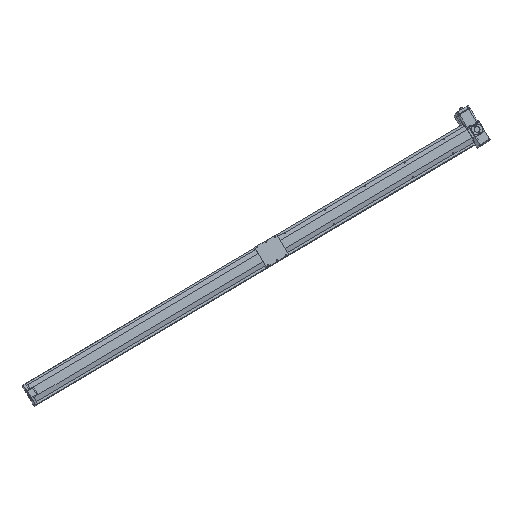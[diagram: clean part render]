
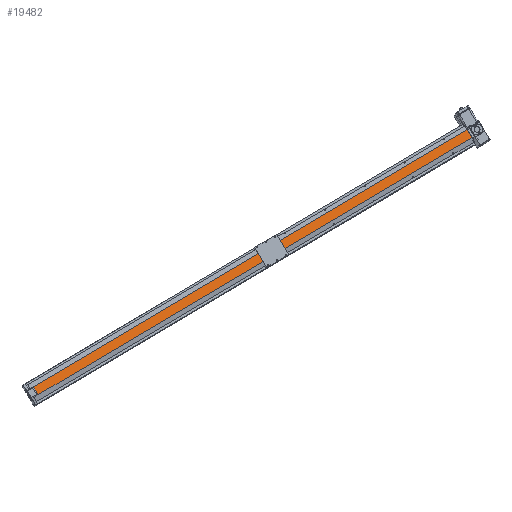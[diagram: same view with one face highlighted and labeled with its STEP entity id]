
A CAD part, front view. The second image highlights one B-rep face of the part: STEP entity #19482.
In plain terms, the highlighted planar face has unit normal (0.104, -0.986, 0.129) as drawn and (0, 1, 0) by its records, which use the part's own axes.
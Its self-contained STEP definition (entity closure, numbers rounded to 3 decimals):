
#1778 = DIRECTION ( 'NONE',  ( 0., 0., -1. ) ) ;
#2711 = VECTOR ( 'NONE', #1778, 1000. ) ;
#2718 = CARTESIAN_POINT ( 'NONE',  ( 20., 61.75, 2200. ) ) ;
#2719 = LINE ( 'NONE', #2718, #2711 ) ;
#2731 = CARTESIAN_POINT ( 'NONE',  ( 20., 61.75, 5.114 ) ) ;
#2739 = CARTESIAN_POINT ( 'NONE',  ( 20., 61.75, 0. ) ) ;
#9299 = CARTESIAN_POINT ( 'NONE',  ( -20., 61.75, 0. ) ) ;
#9348 = CARTESIAN_POINT ( 'NONE',  ( -20., 61.75, 2200. ) ) ;
#9401 = CARTESIAN_POINT ( 'NONE',  ( 20., 61.75, 2200. ) ) ;
#9459 = DIRECTION ( 'NONE',  ( 0., 0., -1. ) ) ;
#9460 = VECTOR ( 'NONE', #9459, 1000. ) ;
#9461 = CARTESIAN_POINT ( 'NONE',  ( 20., 61.75, 2200. ) ) ;
#9462 = LINE ( 'NONE', #9461, #9460 ) ;
#9466 = DIRECTION ( 'NONE',  ( -1., 0., 0. ) ) ;
#9468 = VECTOR ( 'NONE', #9466, 1000. ) ;
#9469 = CARTESIAN_POINT ( 'NONE',  ( 20., 61.75, 2200. ) ) ;
#9470 = LINE ( 'NONE', #9469, #9468 ) ;
#9471 = DIRECTION ( 'NONE',  ( -1., 0., 0. ) ) ;
#9472 = VECTOR ( 'NONE', #9471, 1000. ) ;
#9473 = CARTESIAN_POINT ( 'NONE',  ( 20., 61.75, 0. ) ) ;
#9474 = LINE ( 'NONE', #9473, #9472 ) ;
#9476 = DIRECTION ( 'NONE',  ( 0., 0., -1. ) ) ;
#9478 = DIRECTION ( 'NONE',  ( 0., 0., -1. ) ) ;
#9479 = DIRECTION ( 'NONE',  ( 0., -1., 0. ) ) ;
#9480 = CARTESIAN_POINT ( 'NONE',  ( 20., 61.75, 2200. ) ) ;
#9481 = AXIS2_PLACEMENT_3D ( 'NONE', #9480, #9479, #9478 ) ;
#9482 = PLANE ( 'NONE',  #9481 ) ;
#9483 = VECTOR ( 'NONE', #9476, 1000. ) ;
#9484 = CARTESIAN_POINT ( 'NONE',  ( -20., 61.75, 2200. ) ) ;
#9485 = LINE ( 'NONE', #9484, #9483 ) ;
#9486 = FACE_OUTER_BOUND ( 'NONE', #19368, .T. ) ;
#19328 = VERTEX_POINT ( 'NONE', #9299 ) ;
#19340 = VERTEX_POINT ( 'NONE', #9348 ) ;
#19368 = EDGE_LOOP ( 'NONE', ( #19488, #19496, #19484, #19502, #19494 ) ) ;
#19482 = ADVANCED_FACE ( 'NONE', ( #9486 ), #9482, .F. ) ;
#19484 = ORIENTED_EDGE ( 'NONE', *, *, #19498, .F. ) ;
#19486 = VERTEX_POINT ( 'NONE', #9401 ) ;
#19488 = ORIENTED_EDGE ( 'NONE', *, *, #19492, .T. ) ;
#19490 = EDGE_CURVE ( 'NONE', #19340, #19328, #9485, .T. ) ;
#19492 = EDGE_CURVE ( 'NONE', #21844, #19328, #9474, .T. ) ;
#19494 = ORIENTED_EDGE ( 'NONE', *, *, #21856, .T. ) ;
#19496 = ORIENTED_EDGE ( 'NONE', *, *, #19490, .F. ) ;
#19498 = EDGE_CURVE ( 'NONE', #19486, #19340, #9470, .T. ) ;
#19500 = EDGE_CURVE ( 'NONE', #19486, #21843, #9462, .T. ) ;
#19502 = ORIENTED_EDGE ( 'NONE', *, *, #19500, .T. ) ;
#21843 = VERTEX_POINT ( 'NONE', #2731 ) ;
#21844 = VERTEX_POINT ( 'NONE', #2739 ) ;
#21856 = EDGE_CURVE ( 'NONE', #21843, #21844, #2719, .T. ) ;
